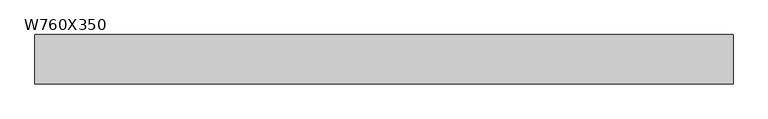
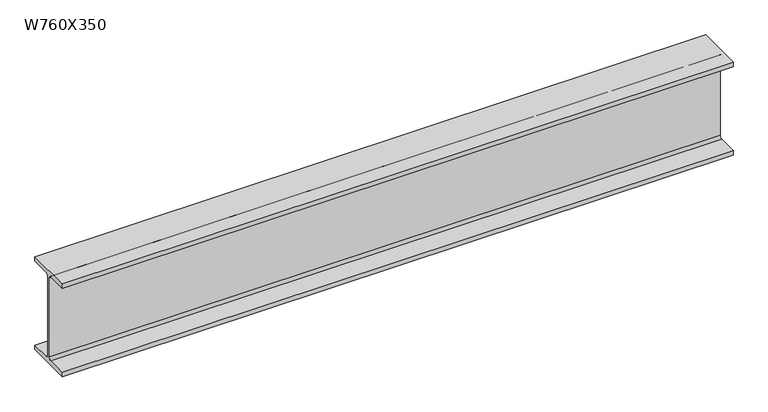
"""IFC4 building model written with IfcOpenShell, lengths in millimetres: beam geometry, M_W-Wide Flange : W760X350."""

from ifc_helpers import new_model, si_unit, point, frame, frame_2d, origin, place, context, project, spatial, polyline, circle_curve, trimmed, segment, composite_curve, outline, extrude, source, transform, mapped, element, save


def w760x350_863436a1(model_context):
    return source(origin(), model_context, "Body", "SweptSolid", [
        extrude(outline(composite_curve([segment(polyline([(192.0, -359.4), (192.0, -397.5), (-192.0, -397.5), (-192.0, -359.4), (-32.75, -359.4)]), True, "CONTINUOUS"), segment(trimmed(circle_curve(frame_2d((-32.75, -337.2)), 22.2), [point((-32.75, -359.4))], [point((-10.55, -337.2))], True, "CARTESIAN"), True, "CONTINUOUS"), segment(polyline([(-10.55, -337.2), (-10.55, 337.2)]), True, "CONTINUOUS"), segment(trimmed(circle_curve(frame_2d((-32.75, 337.2)), 22.2), [point((-10.55, 337.2))], [point((-32.75, 359.4))], True, "CARTESIAN"), True, "CONTINUOUS"), segment(polyline([(-32.75, 359.4), (-192.0, 359.4), (-192.0, 397.5), (192.0, 397.5), (192.0, 359.4), (32.75, 359.4)]), True, "CONTINUOUS"), segment(trimmed(circle_curve(frame_2d((32.75, 337.2)), 22.2), [point((32.75, 359.4))], [point((10.55, 337.2))], True, "CARTESIAN"), True, "CONTINUOUS"), segment(polyline([(10.55, 337.2), (10.55, -337.2)]), True, "CONTINUOUS"), segment(trimmed(circle_curve(frame_2d((32.75, -337.2)), 22.2), [point((10.55, -337.2))], [point((32.75, -359.4))], True, "CARTESIAN"), True, "CONTINUOUS"), segment(polyline([(32.75, -359.4), (192.0, -359.4)]), True, "CONTINUOUS")], self_intersect=False)), frame((-2608.2945019, 0.0, 0.0), z_axis=(1.0, 0.0, 0.0), x_axis=(0.0, 1.0, 0.0)), (0.0, 0.0, 1.0), 5426.6175748),
    ])


if __name__ == "__main__":
    model = new_model("IFC4")
    model_context = context("Model", 3, world=origin())
    ifc_project = project(units=[si_unit("LENGTHUNIT", "METRE", prefix="MILLI")], contexts=[model_context])
    site = spatial("IfcSite", under=ifc_project)
    building = spatial("IfcBuilding", under=site)
    placement = place(None, origin())
    w760x350_shape = w760x350_863436a1(model_context)
    element("IfcBeam", 1, ObjectType="M_W-Wide Flange : W760X350", at=placement, inside=building, context=model_context, shape_type="MappedRepresentation", body=[
        mapped(w760x350_shape, transform((0.0, 0.0, 0.0), x_axis=(1.0, 0.0, 0.0), y_axis=(0.0, 1.0, 0.0), z_axis=(0.0, 0.0, 1.0))),
    ])
    save(model, "model.ifc")
